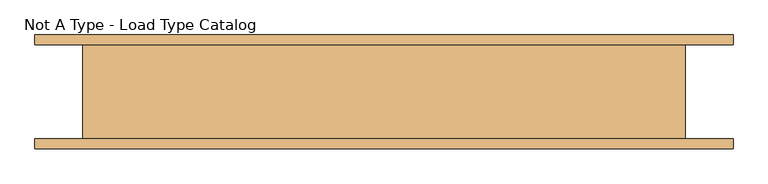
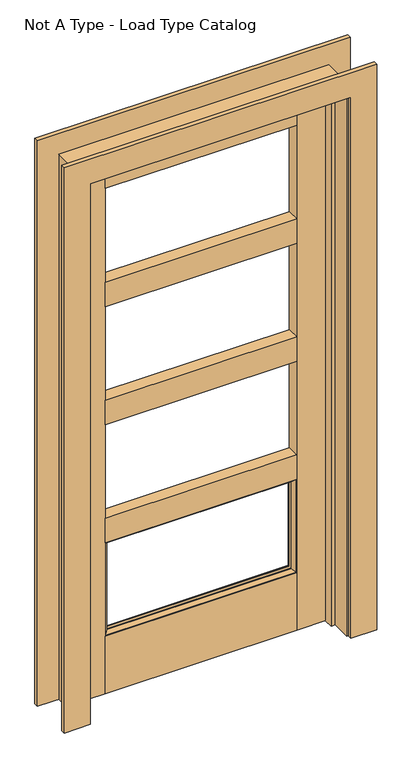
"""IFC4 building model written with IfcOpenShell, lengths in millimetres: door geometry, Door-Interior-Karona-K3040-4_Panel : Not A Type - Load Type Catalog."""

from ifc_helpers import new_model, si_unit, frame, origin, origin_with_axes, place, context, project, spatial, polyline, ellipse_curve, outline, extrude, faceted_brep, source, transform, mapped, element, save
from ifc_brep_helpers import plane_surface, cylinder_surface, advanced_brep


def not_a_type_load_type_catalog_d574bbdc(model_context):
    return source(origin(), model_context, "Body", "SolidModel", [
        advanced_brep(
        [(341.3125, 69.9962, 215.9), (341.3125, 35.0346875, 215.9), (-341.3125, 35.0346875, 215.9), (-341.3125, 69.9962, 215.9), (330.1873, 60.5616875, 227.0252), (330.1873, 61.8710899, 227.0252), (-330.1873, 61.8710899, 227.0252), (-330.1873, 60.5616875, 227.0252), (340.0425, 44.3564875, 217.17), (340.0425, 60.5616875, 217.17), (-340.0425, 60.5616875, 217.17), (-340.0425, 44.3564875, 217.17), (-341.3125, 35.0346875, 569.11875), (-341.3125, 69.9962, 569.11875), (-330.1873, 61.8710899, 557.99355), (-330.1873, 60.5616875, 557.99355), (-340.0425, 60.5616875, 567.84875), (-340.0425, 44.3564875, 567.84875), (341.3125, 35.0346875, 569.11875), (341.3125, 69.9962, 569.11875), (330.1873, 61.8710899, 557.99355), (330.1873, 60.5616875, 557.99355), (340.0425, 60.5616875, 567.84875), (340.0425, 44.3564875, 567.84875), (329.9871863, 44.3564875, 227.2253137), (329.9871863, 44.3564875, 557.7934363), (-329.9871863, 44.3564875, 557.7934363), (-329.9871863, 44.3564875, 227.2253137), (339.0773, 69.9962, 218.1352), (-339.0773, 69.9962, 218.1352), (-339.0773, 69.9962, 566.88355), (339.0773, 69.9962, 566.88355)],
        [
            (0, 1),
            (1, 2),
            (2, 3),
            (3, 0),
            (4, 5),
            (5, 6),
            (6, 7),
            (7, 4),
            (8, 9),
            (9, 10),
            (10, 11),
            (11, 8),
            (2, 12),
            (12, 13),
            (13, 3),
            (6, 14),
            (14, 15),
            (15, 7),
            (10, 16),
            (16, 17),
            (17, 11),
            (12, 18),
            (18, 19),
            (19, 13),
            (14, 20),
            (20, 21),
            (21, 15),
            (16, 22),
            (22, 23),
            (23, 17),
            (18, 1),
            (0, 19),
            (20, 5),
            (4, 21),
            (9, 22),
            (8, 23),
            (24, 25),
            (25, 26),
            (26, 27),
            (27, 24),
            (5, 28, ellipse_curve(frame((339.0773, 61.070197, 218.1352), z_axis=(-0.7071067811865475, 0.0, -0.7071067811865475), x_axis=(0.7071067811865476, 0.0, -0.7071067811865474)), 12.6232745, 8.926003)),
            (28, 29),
            (29, 6, ellipse_curve(frame((-339.0773, 61.070197, 218.1352), z_axis=(0.7071067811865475, 0.0, -0.7071067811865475), x_axis=(0.7071067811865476, 0.0, 0.7071067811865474)), 12.6232745, 8.926003)),
            (1, 24, ellipse_curve(frame((340.2814876, 45.322701, 216.9310124), z_axis=(-0.7071067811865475, 0.0, -0.7071067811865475), x_axis=(0.7071067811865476, 0.0, -0.7071067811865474)), 14.6223259, 10.3395458)),
            (27, 2, ellipse_curve(frame((-340.2814876, 45.322701, 216.9310124), z_axis=(0.7071067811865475, 0.0, -0.7071067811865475), x_axis=(0.7071067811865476, 0.0, 0.7071067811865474)), 14.6223259, 10.3395458)),
            (29, 30),
            (30, 14, ellipse_curve(frame((-339.0773, 61.070197, 566.88355), z_axis=(-0.7071067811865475, 0.0, -0.7071067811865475), x_axis=(0.7071067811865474, 0.0, -0.7071067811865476)), 12.6232745, 8.926003)),
            (26, 12, ellipse_curve(frame((-340.2814876, 45.322701, 568.0877376), z_axis=(-0.7071067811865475, 0.0, -0.7071067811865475), x_axis=(0.7071067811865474, 0.0, -0.7071067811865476)), 14.6223259, 10.3395458)),
            (30, 31),
            (31, 20, ellipse_curve(frame((339.0773, 61.070197, 566.88355), z_axis=(-0.7071067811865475, 0.0, 0.7071067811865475), x_axis=(-0.7071067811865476, 0.0, -0.7071067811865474)), 12.6232745, 8.926003)),
            (25, 18, ellipse_curve(frame((340.2814876, 45.322701, 568.0877376), z_axis=(-0.7071067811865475, 0.0, 0.7071067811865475), x_axis=(-0.7071067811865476, 0.0, -0.7071067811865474)), 14.6223259, 10.3395458)),
            (28, 31),
        ],
        [
            plane_surface(frame((341.3125, 35.0346875, 215.9), z_axis=(0.0, 0.0, -1.0), x_axis=(-1.0, 0.0, 0.0))),
            plane_surface(frame((330.1873, 61.8710899, 227.0252), z_axis=(0.0, 0.0, 1.0), x_axis=(-1.0, 0.0, 0.0))),
            plane_surface(frame((340.0425, 60.5616875, 217.17), z_axis=(0.0, 0.0, 1.0), x_axis=(-1.0, 0.0, 0.0))),
            plane_surface(frame((-341.3125, 35.0346875, 215.9), z_axis=(-1.0, 0.0, 0.0), x_axis=(0.0, 0.0, 1.0))),
            plane_surface(frame((-330.1873, 61.8710899, 227.0252), z_axis=(1.0, 0.0, 0.0), x_axis=(0.0, 0.0, 1.0))),
            plane_surface(frame((-340.0425, 60.5616875, 217.17), z_axis=(1.0, 0.0, 0.0), x_axis=(0.0, 0.0, 1.0))),
            plane_surface(frame((-341.3125, 35.0346875, 569.11875), z_axis=(0.0, 0.0, 1.0), x_axis=(1.0, 0.0, 0.0))),
            plane_surface(frame((-330.1873, 61.8710899, 557.99355), z_axis=(0.0, 0.0, -1.0), x_axis=(1.0, 0.0, 0.0))),
            plane_surface(frame((-340.0425, 60.5616875, 567.84875), z_axis=(0.0, 0.0, -1.0), x_axis=(1.0, 0.0, 0.0))),
            plane_surface(frame((341.3125, 35.0346875, 569.11875), z_axis=(1.0, 0.0, 0.0), x_axis=(0.0, 0.0, -1.0))),
            plane_surface(frame((330.1873, 61.8710899, 557.99355), z_axis=(-1.0, 0.0, 0.0), x_axis=(0.0, 0.0, -1.0))),
            plane_surface(frame((330.1873, 60.5616875, 557.99355), z_axis=(0.0, -1.0, 0.0), x_axis=(0.0, 0.0, -1.0))),
            plane_surface(frame((340.0425, 60.5616875, 567.84875), z_axis=(-1.0, 0.0, 0.0), x_axis=(0.0, 0.0, -1.0))),
            plane_surface(frame((340.0425, 44.3564875, 567.84875), z_axis=(0.0, 1.0, 0.0), x_axis=(0.0, 0.0, -1.0))),
            cylinder_surface(frame((341.3125, 61.070197, 218.1352), z_axis=(1.0, 0.0, 0.0), x_axis=(0.0, -1.0, 0.0)), 8.926003),
            cylinder_surface(frame((341.3125, 45.322701, 216.9310124), z_axis=(1.0, 0.0, 0.0), x_axis=(0.0, -1.0, 0.0)), 10.3395458),
            cylinder_surface(frame((-339.0773, 61.070197, 215.9), z_axis=(0.0, 0.0, -1.0), x_axis=(0.0, -1.0, 0.0)), 8.926003),
            cylinder_surface(frame((-340.2814876, 45.322701, 215.9), z_axis=(0.0, 0.0, -1.0), x_axis=(0.0, -1.0, 0.0)), 10.3395458),
            cylinder_surface(frame((-341.3125, 61.070197, 566.88355), z_axis=(-1.0, 0.0, 0.0), x_axis=(0.0, -1.0, 0.0)), 8.926003),
            cylinder_surface(frame((-341.3125, 45.322701, 568.0877376), z_axis=(-1.0, 0.0, 0.0), x_axis=(0.0, -1.0, 0.0)), 10.3395458),
            plane_surface(frame((341.3125, 69.9962, 569.11875), z_axis=(0.0, 1.0, 0.0), x_axis=(0.0, 0.0, -1.0))),
            cylinder_surface(frame((339.0773, 61.070197, 569.11875), z_axis=(0.0, 0.0, 1.0), x_axis=(0.0, -1.0, 0.0)), 8.926003),
            cylinder_surface(frame((340.2814876, 45.322701, 569.11875), z_axis=(0.0, 0.0, 1.0), x_axis=(0.0, -1.0, 0.0)), 10.3395458),
        ],
        [
            (0, [[1, 2, 3, 4]]),
            (1, [[5, 6, 7, 8]]),
            (2, [[9, 10, 11, 12]]),
            (3, [[-3, 13, 14, 15]]),
            (4, [[-7, 16, 17, 18]]),
            (5, [[-11, 19, 20, 21]]),
            (6, [[-14, 22, 23, 24]]),
            (7, [[-17, 25, 26, 27]]),
            (8, [[-20, 28, 29, 30]]),
            (9, [[-23, 31, -1, 32]]),
            (10, [[-26, 33, -5, 34]]),
            (11, [[35, -28, -19, -10], [-18, -27, -34, -8]]),
            (12, [[-29, -35, -9, 36]]),
            (13, [[-21, -30, -36, -12], [37, 38, 39, 40]]),
            (14, [[41, 42, 43, -6]]),
            (15, [[44, -40, 45, -2]]),
            (16, [[-43, 46, 47, -16]]),
            (17, [[-45, -39, 48, -13]]),
            (18, [[-47, 49, 50, -25]]),
            (19, [[-48, -38, 51, -22]]),
            (20, [[-15, -24, -32, -4], [52, -49, -46, -42]]),
            (21, [[-50, -52, -41, -33]]),
            (22, [[-51, -37, -44, -31]]),
        ],
    ),
        extrude(outline(polyline([(341.3125, 29.9546875), (-341.3125, 29.9546875), (-341.3125, 75.0), (341.3125, 75.0), (341.3125, 29.9546875)])), frame((0.0, 0.0, 1905.0), z_axis=(0.0, 0.0, 1.0), x_axis=(1.0, 0.0, 0.0)), (0.0, 0.0, 1.0), 127.0),
        extrude(outline(polyline([(341.3125, 29.9546875), (-341.3125, 29.9546875), (-341.3125, 75.0), (341.3125, 75.0), (341.3125, 29.9546875)])), origin_with_axes(), (0.0, 0.0, 1.0), 215.9),
        extrude(outline(polyline([(-341.3125, 29.9546875), (-341.3125, 75.0), (341.3125, 75.0), (341.3125, 29.9546875), (-341.3125, 29.9546875)])), frame((0.0, 0.0, 569.11875), z_axis=(0.0, 0.0, 1.0), x_axis=(1.0, 0.0, 0.0)), (0.0, 0.0, 1.0), 92.075),
        extrude(outline(polyline([(-341.3125, 29.9546875), (-341.3125, 75.0), (341.3125, 75.0), (341.3125, 29.9546875), (-341.3125, 29.9546875)])), frame((0.0, 0.0, 1014.4125), z_axis=(0.0, 0.0, 1.0), x_axis=(1.0, 0.0, 0.0)), (0.0, 0.0, 1.0), 92.075),
        extrude(outline(polyline([(-341.3125, 29.9546875), (-341.3125, 75.0), (341.3125, 75.0), (341.3125, 29.9546875), (-341.3125, 29.9546875)])), frame((0.0, 0.0, 1459.70625), z_axis=(0.0, 0.0, 1.0), x_axis=(1.0, 0.0, 0.0)), (0.0, 0.0, 1.0), 92.075),
        extrude(outline(polyline([(-341.3125, 29.9546875), (-457.2, 29.9546875), (-457.2, 75.0), (-341.3125, 75.0), (-341.3125, 29.9546875)])), origin_with_axes(), (0.0, 0.0, 1.0), 2032.0),
        extrude(outline(polyline([(457.2, 29.9546875), (341.3125, 29.9546875), (341.3125, 75.0), (457.2, 75.0), (457.2, 29.9546875)])), origin_with_axes(), (0.0, 0.0, 1.0), 2032.0),
        faceted_brep([(481.409375, -75.0, 0.0), (458.390625, -75.0, 0.0), (458.390625, -4.9703125, 0.0), (443.6401275, -4.9703125, 0.0), (443.6401275, 29.9546875, 0.0), (458.390625, 29.9546875, 0.0), (458.390625, 75.0, 0.0), (481.409375, 75.0, 0.0), (481.409375, -75.0, 2056.209375), (-481.409375, -75.0, 2056.209375), (-481.409375, -75.0, 0.0), (-458.390625, -75.0, 0.0), (-458.390625, -75.0, 2033.190625), (458.390625, -75.0, 2033.190625), (458.390625, -4.9703125, 2033.190625), (-458.390625, -4.9703125, 2033.190625), (-458.390625, -4.9703125, 0.0), (-443.6401275, -4.9703125, 0.0), (-443.6401275, -4.9703125, 2018.4401275), (443.6401275, -4.9703125, 2018.4401275), (443.6401275, 29.9546875, 2018.4401275), (-443.6401275, 29.9546875, 2018.4401275), (-443.6401275, 29.9546875, 0.0), (-458.390625, 29.9546875, 0.0), (-458.390625, 29.9546875, 2033.190625), (458.390625, 29.9546875, 2033.190625), (458.390625, 75.0, 2033.190625), (-458.390625, 75.0, 2033.190625), (-458.390625, 75.0, 0.0), (-481.409375, 75.0, 0.0), (-481.409375, 75.0, 2056.209375), (481.409375, 75.0, 2056.209375)], [[[0, 1, 2, 3, 4, 5, 6, 7]], [[1, 0, 8, 9, 10, 11, 12, 13]], [[2, 1, 13, 14]], [[3, 2, 14, 15, 16, 17, 18, 19]], [[4, 3, 19, 20]], [[5, 4, 20, 21, 22, 23, 24, 25]], [[6, 5, 25, 26]], [[7, 6, 26, 27, 28, 29, 30, 31]], [[0, 7, 31, 8]], [[14, 13, 12, 15]], [[20, 19, 18, 21]], [[26, 25, 24, 27]], [[8, 31, 30, 9]], [[10, 29, 28, 23, 22, 17, 16, 11]], [[15, 12, 11, 16]], [[21, 18, 17, 22]], [[27, 24, 23, 28]], [[9, 30, 29, 10]]]),
        extrude(outline(polyline([(2132.409375, -557.609375), (0.0, -557.609375), (0.0, -464.740625), (2039.540625, -464.740625), (2039.540625, 464.740625), (0.0, 464.740625), (0.0, 557.609375), (2132.409375, 557.609375), (2132.409375, -557.609375)])), frame((0.0, -90.875, 0.0), z_axis=(0.0, 1.0, 0.0), x_axis=(0.0, 0.0, 1.0)), (0.0, 0.0, 1.0), 15.875),
        extrude(outline(polyline([(2132.409375, 557.609375), (2132.409375, -557.609375), (0.0, -557.609375), (0.0, -464.740625), (2039.540625, -464.740625), (2039.540625, 464.740625), (0.0, 464.740625), (0.0, 557.609375), (2132.409375, 557.609375)])), frame((0.0, 75.0, 0.0), z_axis=(0.0, 1.0, 0.0), x_axis=(0.0, 0.0, 1.0)), (0.0, 0.0, 1.0), 15.875),
    ])


if __name__ == "__main__":
    model = new_model("IFC4")
    model_context = context("Model", 3, world=origin())
    ifc_project = project(units=[si_unit("LENGTHUNIT", "METRE", prefix="MILLI")], contexts=[model_context])
    site = spatial("IfcSite", under=ifc_project)
    building = spatial("IfcBuilding", under=site)
    placement = place(None, origin())
    not_a_type_load_type_catalog_shape = not_a_type_load_type_catalog_d574bbdc(model_context)
    element("IfcDoor", 1, ObjectType="Door-Interior-Karona-K3040-4_Panel : Not A Type - Load Type Catalog", at=placement, inside=building, context=model_context, shape_type="MappedRepresentation", body=[
        mapped(not_a_type_load_type_catalog_shape, transform((0.0, 0.0, 0.0), x_axis=(1.0, 0.0, 0.0), y_axis=(0.0, 1.0, 0.0), z_axis=(0.0, 0.0, 1.0))),
    ])
    save(model, "model.ifc")
